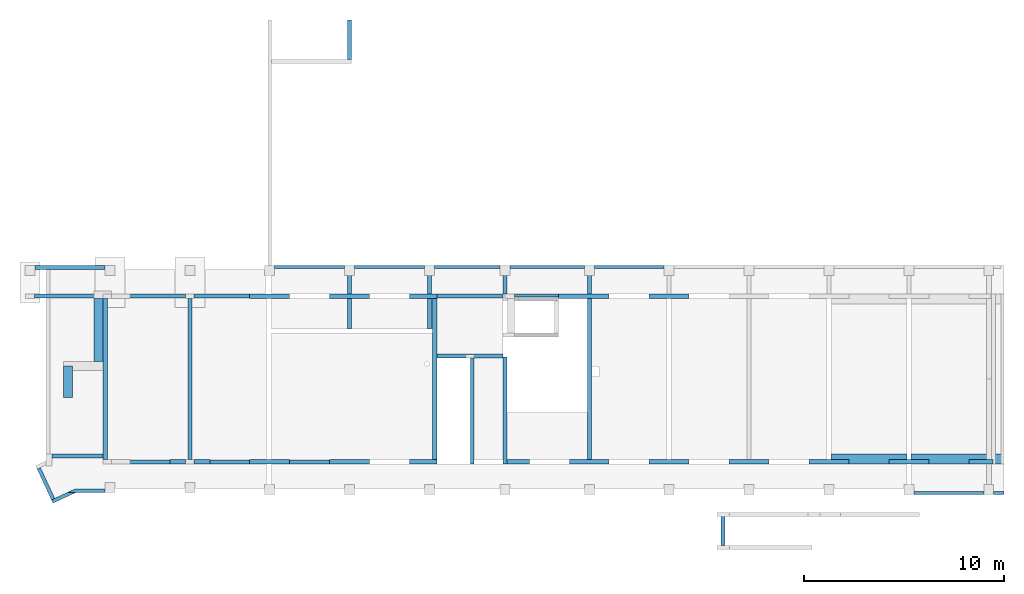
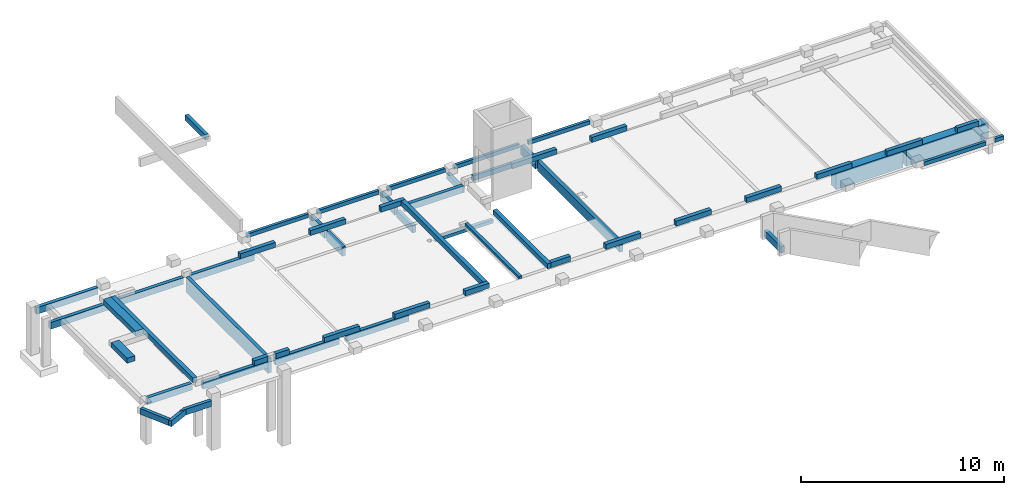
# One storey, part 1 of 5: 52 beams.
"""IFC2X3 building model written with IfcOpenShell, lengths in metres."""

from ifc_helpers import new_model, entity, si_unit, converted_unit, derived_unit, direction, frame, frame_2d, origin, origin_2d_with_axis, place, context, subcontext, project, spatial, polyline, rectangle, outline, extrude, clip, halfspace, source, transform, mapped, material, type_object, type_shapes, element, save


model = new_model("IFC2X3")

# Units and contexts
model_context = context("Model", 3, precision=1e-05, world=origin(), true_north=direction((6.12303176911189e-17, 1.0)))
body_context = subcontext(model_context, "Body", "Model", "MODEL_VIEW")
ifc_project = project(units=[si_unit("LENGTHUNIT", "METRE"), si_unit("AREAUNIT", "SQUARE_METRE"), si_unit("VOLUMEUNIT", "CUBIC_METRE"), converted_unit("PLANEANGLEUNIT", "DEGREE", entity("IfcRatioMeasure", 0.0174532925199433), si_unit("PLANEANGLEUNIT", "RADIAN"), dimensions=[0, 0, 0, 0, 0, 0, 0]), si_unit("MASSUNIT", "GRAM", prefix="KILO"), derived_unit("MASSDENSITYUNIT", [(si_unit("MASSUNIT", "GRAM", prefix="KILO"), 1), (si_unit("LENGTHUNIT", "METRE"), -3)]), si_unit("TIMEUNIT", "SECOND"), si_unit("FREQUENCYUNIT", "HERTZ"), si_unit("THERMODYNAMICTEMPERATUREUNIT", "DEGREE_CELSIUS"), derived_unit("THERMALTRANSMITTANCEUNIT", [(si_unit("MASSUNIT", "GRAM", prefix="KILO"), 1), (si_unit("THERMODYNAMICTEMPERATUREUNIT", "KELVIN"), -1), (si_unit("TIMEUNIT", "SECOND"), -3)]), derived_unit("VOLUMETRICFLOWRATEUNIT", [(si_unit("LENGTHUNIT", "METRE"), 3), (si_unit("TIMEUNIT", "SECOND"), -1)]), si_unit("ELECTRICCURRENTUNIT", "AMPERE"), si_unit("ELECTRICVOLTAGEUNIT", "VOLT"), si_unit("POWERUNIT", "WATT"), si_unit("FORCEUNIT", "NEWTON"), si_unit("ILLUMINANCEUNIT", "LUX"), si_unit("LUMINOUSFLUXUNIT", "LUMEN"), si_unit("LUMINOUSINTENSITYUNIT", "CANDELA"), derived_unit("USERDEFINED", [(si_unit("MASSUNIT", "GRAM", prefix="KILO"), -1), (si_unit("LENGTHUNIT", "METRE"), -2), (si_unit("TIMEUNIT", "SECOND"), 3), (si_unit("LUMINOUSFLUXUNIT", "LUMEN"), 1)]), derived_unit("LINEARVELOCITYUNIT", [(si_unit("LENGTHUNIT", "METRE"), 1), (si_unit("TIMEUNIT", "SECOND"), -1)]), si_unit("PRESSUREUNIT", "PASCAL"), derived_unit("USERDEFINED", [(si_unit("LENGTHUNIT", "METRE"), -2), (si_unit("MASSUNIT", "GRAM", prefix="KILO"), 1), (si_unit("TIMEUNIT", "SECOND"), -2)])], contexts=[model_context])

# Site, building, storey
site_placement = place(None, origin())
site = spatial("IfcSite", under=ifc_project, at=site_placement, Name="Default", CompositionType="ELEMENT")
building_placement = place(site_placement, origin())
building = spatial("IfcBuilding", under=site, at=building_placement, CompositionType="ELEMENT")
storey_placement = place(building_placement, origin())
storey = spatial("IfcBuildingStorey", under=building, at=storey_placement, Name="S01", CompositionType="ELEMENT", Elevation=0.0)

# Beams
ifc_material = material(Name="Béton, coulé sur place gris")
beam_type_1 = type_object("IfcBeamType", Name="20x55ht", PredefinedType="BEAM")
beam_1_placement = place(storey_placement, frame((45.269743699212, -187.006488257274, 0.0), z_axis=(0.0, 0.0, 1.0), x_axis=(0.0, 1.0, 0.0)))
element("IfcBeam", 1, at=beam_1_placement, inside=storey, type_object=beam_type_1, material=ifc_material, Name="II-Poutre rectangulaire - Béton:20x55ht", ObjectType="II-Poutre rectangulaire - Béton:20x55ht", context=body_context, shape_type="SweptSolid", body=[
    extrude(rectangle(XDim=0.370000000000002, YDim=0.200000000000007, at=frame_2d((4.16333634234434e-17, 0.0), x_axis=(1.0, 0.0))), frame((2.04999999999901, 0.0, -0.445000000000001), z_axis=(1.0, 0.0, 0.0), x_axis=(0.0, 0.0, -1.0)), (0.0, 0.0, 1.0), 1.44166921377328),
])
beam_2_placement = place(storey_placement, frame((49.4897436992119, -185.056488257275, 0.0), z_axis=(0.0, 0.0, 1.0), x_axis=(0.0, 1.0, 0.0)))
element("IfcBeam", 2, at=beam_2_placement, inside=storey, type_object=beam_type_1, material=ifc_material, Name="II-Poutre rectangulaire - Béton:20x55ht", ObjectType="II-Poutre rectangulaire - Béton:20x55ht", context=body_context, shape_type="SweptSolid", body=[
    extrude(rectangle(XDim=0.55, YDim=0.200000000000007, at=frame_2d((-5.55111512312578e-17, 0.0), x_axis=(1.0, 0.0))), frame((0.099999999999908, 0.0, -0.355000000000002), z_axis=(1.0, 0.0, 0.0), x_axis=(0.0, 0.0, -1.0)), (0.0, 0.0, 1.0), 1.44166921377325),
])
beam_type_2 = type_object("IfcBeamType", Name="20x55ht", PredefinedType="BEAM", material=ifc_material)
shared_shape_1 = source(origin(), body_context, "Body", "SweptSolid", [
    extrude(rectangle(XDim=0.55, YDim=0.200000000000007, at=frame_2d((0.0, 5.55111512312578e-17), x_axis=(0.0, 1.0))), frame((41.489743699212, -184.956488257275, -0.355000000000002), z_axis=(0.0, 1.0, 0.0), x_axis=(-1.0, 0.0, 0.0)), (0.0, 0.0, 1.0), 1.44166921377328),
    extrude(rectangle(XDim=0.420000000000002, YDim=0.200000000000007, at=frame_2d((0.0, 0.0), x_axis=(0.0, 1.0))), frame((41.489743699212, -186.714488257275, -0.420000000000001), z_axis=(0.0, 1.0, 0.0), x_axis=(-1.0, 0.0, 0.0)), (0.0, 0.0, 1.0), 1.55799999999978),
])
type_shapes(beam_type_2, [shared_shape_1])
beam_3_placement = place(storey_placement, origin())
element("IfcBeam", 3, at=beam_3_placement, inside=storey, type_object=beam_type_2, material=ifc_material, Name="II-Poutre rectangulaire - Béton:20x55ht", ObjectType="II-Poutre rectangulaire - Béton:20x55ht", context=body_context, shape_type="MappedRepresentation", body=[
    mapped(shared_shape_1, transform((0.0, 0.0, 0.0), scale=1.0)),
])
beam_type_3 = type_object("IfcBeamType", Name="20x55ht", PredefinedType="BEAM", material=ifc_material)
shared_shape_2 = source(origin(), body_context, "Body", "SweptSolid", [
    extrude(rectangle(XDim=0.55, YDim=0.200000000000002, at=frame_2d((2.16493489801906e-15, 5.55111512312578e-17), x_axis=(0.0, 1.0))), frame((37.4897436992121, -184.956488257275, -0.355000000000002), z_axis=(0.0, 1.0, 0.0), x_axis=(-1.0, 0.0, 0.0)), (0.0, 0.0, 1.0), 1.44166921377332),
    extrude(rectangle(XDim=0.55, YDim=0.200000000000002, at=frame_2d((2.16493489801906e-15, 5.55111512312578e-17), x_axis=(0.0, 1.0))), frame((37.4897436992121, -186.714488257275, -0.355000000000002), z_axis=(0.0, 1.0, 0.0), x_axis=(-1.0, 0.0, 0.0)), (0.0, 0.0, 1.0), 1.55799999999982),
])
type_shapes(beam_type_3, [shared_shape_2])
beam_4_placement = place(storey_placement, origin())
element("IfcBeam", 4, at=beam_4_placement, inside=storey, type_object=beam_type_3, material=ifc_material, Name="II-Poutre rectangulaire - Béton:20x55ht", ObjectType="II-Poutre rectangulaire - Béton:20x55ht", context=body_context, shape_type="MappedRepresentation", body=[
    mapped(shared_shape_2, transform((0.0, 0.0, 0.0), scale=1.0)),
])
beam_type_4 = type_object("IfcBeamType", Name="20x56ht", PredefinedType="BEAM")
beam_5_placement = place(storey_placement, frame((49.4897436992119, -193.359651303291, 0.0), z_axis=(0.0, 0.0, 1.0), x_axis=(0.0, 1.0, 0.0)))
element("IfcBeam", 5, at=beam_5_placement, inside=storey, type_object=beam_type_4, material=ifc_material, Name="II-Poutre rectangulaire - Béton:20x56ht", ObjectType="II-Poutre rectangulaire - Béton:20x56ht", context=body_context, shape_type="SweptSolid", body=[
    extrude(rectangle(XDim=0.56, YDim=0.200000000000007, at=frame_2d((-2.77555756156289e-17, 0.0), x_axis=(1.0, 0.0))), frame((0.0999999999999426, 0.0, -0.340000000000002), z_axis=(1.0, 0.0, 0.0), x_axis=(0.0, 0.0, -1.0)), (0.0, 0.0, 1.0), 8.10316304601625),
])
beam_type_5 = type_object("IfcBeamType", Name="20x40ht", PredefinedType="BEAM")
beam_6_placement = place(storey_placement, frame((41.7597436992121, -185.056488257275, 0.0)))
element("IfcBeam", 6, at=beam_6_placement, inside=storey, type_object=beam_type_5, material=ifc_material, Name="II-Poutre rectangulaire - Béton:20x40ht", ObjectType="II-Poutre rectangulaire - Béton:20x40ht", context=body_context, shape_type="SweptSolid", body=[
    extrude(rectangle(XDim=0.4, YDim=0.200000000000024, at=frame_2d((-2.77555756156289e-17, 0.0), x_axis=(1.0, 0.0))), frame((0.0999999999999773, 0.0, -0.260000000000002), z_axis=(1.0, 0.0, 0.0), x_axis=(0.0, 0.0, -1.0)), (0.0, 0.0, 1.0), 3.3099999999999),
])
beam_7_placement = place(storey_placement, frame((25.2947436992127, -183.614819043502, 0.0), z_axis=(0.0, 0.0, 1.0), x_axis=(-1.0, 0.0, 0.0)))
element("IfcBeam", 7, at=beam_7_placement, inside=storey, type_object=beam_type_5, material=ifc_material, Name="II-Poutre rectangulaire - Béton:20x40ht", ObjectType="II-Poutre rectangulaire - Béton:20x40ht", context=body_context, shape_type="SweptSolid", body=[
    extrude(rectangle(XDim=0.4, YDim=0.199999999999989, at=frame_2d((-2.77555756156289e-17, 0.0), x_axis=(1.0, 0.0))), frame((0.0550000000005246, 0.0, -0.260000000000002), z_axis=(1.0, 0.0, 0.0), x_axis=(0.0, 0.0, -1.0)), (0.0, 0.0, 1.0), 3.5),
])
beam_8_placement = place(storey_placement, frame((56.189743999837, -196.001320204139, 0.0), z_axis=(0.0, 0.0, 1.0), x_axis=(0.0, -1.0, 0.0)))
element("IfcBeam", 8, at=beam_8_placement, inside=storey, type_object=beam_type_5, material=ifc_material, Name="II-Poutre rectangulaire - Béton:20x40ht", ObjectType="II-Poutre rectangulaire - Béton:20x40ht", context=body_context, shape_type="SweptSolid", body=[
    extrude(rectangle(XDim=0.4, YDim=0.200000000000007, at=frame_2d((-1.38777878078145e-17, -8.65973959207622e-15), x_axis=(1.0, 0.0))), frame((-0.100000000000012, 0.0, -0.220000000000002), z_axis=(1.0, 0.0, 0.0), x_axis=(0.0, 0.0, -1.0)), (0.0, 0.0, 1.0), 1.64509999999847),
])
beam_9_placement = place(storey_placement, frame((33.2897436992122, -185.056488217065, 0.0), z_axis=(0.0, 0.0, 1.0), x_axis=(-1.0, 0.0, 0.0)))
element("IfcBeam", 9, at=beam_9_placement, inside=storey, type_object=beam_type_5, material=ifc_material, Name="II-Poutre rectangulaire - Béton:20x40ht", ObjectType="II-Poutre rectangulaire - Béton:20x40ht", context=body_context, shape_type="SweptSolid", body=[
    extrude(rectangle(XDim=0.4, YDim=0.199999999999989, at=frame_2d((-1.38777878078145e-17, 0.0), x_axis=(1.0, 0.0))), frame((0.0, 0.0, -0.200000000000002), z_axis=(1.0, 0.0, 0.0), x_axis=(0.0, 0.0, -1.0)), (0.0, 0.0, 1.0), 3.58000000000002),
])
beam_10_placement = place(storey_placement, frame((29.3397436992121, -185.056488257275, 0.0), z_axis=(0.0, 0.0, 1.0), x_axis=(-1.0, 0.0, 0.0)))
element("IfcBeam", 10, at=beam_10_placement, inside=storey, type_object=beam_type_5, material=ifc_material, Name="II-Poutre rectangulaire - Béton:20x40ht", ObjectType="II-Poutre rectangulaire - Béton:20x40ht", context=body_context, shape_type="SweptSolid", body=[
    extrude(rectangle(XDim=0.4, YDim=0.199999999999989, at=frame_2d((-1.38777878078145e-17, 0.0), x_axis=(1.0, 0.0))), frame((0.0699999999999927, 0.0, -0.200000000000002), z_axis=(1.0, 0.0, 0.0), x_axis=(0.0, 0.0, -1.0)), (0.0, 0.0, 1.0), 3.68799999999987),
])
beam_11_placement = place(storey_placement, frame((33.4597436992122, -193.359651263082, 0.0), z_axis=(0.0, 0.0, 1.0), x_axis=(-1.0, 0.0, 0.0)))
element("IfcBeam", 11, at=beam_11_placement, inside=storey, type_object=beam_type_5, material=ifc_material, Name="II-Poutre rectangulaire - Béton:20x40ht", ObjectType="II-Poutre rectangulaire - Béton:20x40ht", context=body_context, shape_type="SweptSolid", body=[
    extrude(rectangle(XDim=0.4, YDim=0.200000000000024, at=frame_2d((-1.38777878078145e-17, 0.0), x_axis=(1.0, 0.0))), frame((0.129999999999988, 0.0, -0.200000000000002), z_axis=(1.0, 0.0, 0.0), x_axis=(0.0, 0.0, -1.0)), (0.0, 0.0, 1.0), 3.62000000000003),
])
beam_12_placement = place(storey_placement, frame((29.3397436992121, -193.359651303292, 0.0), z_axis=(0.0, 0.0, 1.0), x_axis=(-1.0, 0.0, 0.0)))
element("IfcBeam", 12, at=beam_12_placement, inside=storey, type_object=beam_type_5, material=ifc_material, Name="II-Poutre rectangulaire - Béton:20x40ht", ObjectType="II-Poutre rectangulaire - Béton:20x40ht", context=body_context, shape_type="SweptSolid", body=[
    extrude(rectangle(XDim=0.4, YDim=0.199999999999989, at=frame_2d((-1.38777878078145e-17, 0.0), x_axis=(1.0, 0.0))), frame((0.0699999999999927, 0.0, -0.200000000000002), z_axis=(1.0, 0.0, 0.0), x_axis=(0.0, 0.0, -1.0)), (0.0, 0.0, 1.0), 3.68799999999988),
])
beam_13_placement = place(storey_placement, frame((25.1417436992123, -193.064651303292, 0.0), z_axis=(0.0, 0.0, 1.0), x_axis=(-1.0, 0.0, 0.0)))
element("IfcBeam", 13, at=beam_13_placement, inside=storey, type_object=beam_type_5, material=ifc_material, Name="II-Poutre rectangulaire - Béton:20x40ht", ObjectType="II-Poutre rectangulaire - Béton:20x40ht", context=body_context, shape_type="SweptSolid", body=[
    extrude(rectangle(XDim=0.4, YDim=0.199999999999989, at=frame_2d((-2.77555756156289e-17, 0.0), x_axis=(1.0, 0.0))), frame((0.0, 0.0, -0.260000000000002), z_axis=(1.0, 0.0, 0.0), x_axis=(0.0, 0.0, -1.0)), (0.0, 0.0, 1.0), 2.55722605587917),
])
beam_14_placement = place(storey_placement, frame((25.337743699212, -185.056488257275, 0.0), z_axis=(0.0, 0.0, 1.0), x_axis=(-1.0, 0.0, 0.0)))
element("IfcBeam", 14, at=beam_14_placement, inside=storey, type_object=beam_type_5, material=ifc_material, Name="II-Poutre rectangulaire - Béton:20x40ht", ObjectType="II-Poutre rectangulaire - Béton:20x40ht", context=body_context, shape_type="SweptSolid", body=[
    extrude(rectangle(XDim=0.4, YDim=0.199999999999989, at=frame_2d((-2.77555756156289e-17, 0.0), x_axis=(1.0, 0.0))), frame((0.195999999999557, 0.0, -0.260000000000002), z_axis=(1.0, 0.0, 0.0), x_axis=(0.0, 0.0, -1.0)), (0.0, 0.0, 1.0), 3.43200000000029),
])
beam_15_placement = place(storey_placement, frame((37.2947436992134, -193.359651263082, 0.0), z_axis=(0.0, 0.0, 1.0), x_axis=(-1.0, 0.0, 0.0)))
element("IfcBeam", 15, at=beam_15_placement, inside=storey, type_object=beam_type_5, material=ifc_material, Name="II-Poutre rectangulaire - Béton:20x40ht", ObjectType="II-Poutre rectangulaire - Béton:20x40ht", context=body_context, shape_type="SweptSolid", body=[
    extrude(rectangle(XDim=0.4, YDim=0.199999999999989, at=frame_2d((-1.38777878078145e-17, 0.0), x_axis=(1.0, 0.0))), frame((0.0, 0.0, -0.200000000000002), z_axis=(1.0, 0.0, 0.0), x_axis=(0.0, 0.0, -1.0)), (0.0, 0.0, 1.0), 3.53199999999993),
])
beam_16_placement = place(storey_placement, frame((41.7597436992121, -188.059651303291, 0.0)))
element("IfcBeam", 16, at=beam_16_placement, inside=storey, type_object=beam_type_5, material=ifc_material, Name="II-Poutre rectangulaire - Béton:20x40ht", ObjectType="II-Poutre rectangulaire - Béton:20x40ht", context=body_context, shape_type="SweptSolid", body=[
    extrude(rectangle(XDim=0.200000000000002, YDim=0.200000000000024, at=frame_2d((-1.38777878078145e-17, 0.0), x_axis=(1.0, 0.0))), frame((0.0999999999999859, 0.0, -0.360000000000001), z_axis=(1.0, 0.0, 0.0), x_axis=(0.0, 0.0, -1.0)), (0.0, 0.0, 1.0), 3.3099999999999),
])
beam_type_6 = type_object("IfcBeamType", Name="50x90/100Ht", PredefinedType="BEAM")
beam_17_placement = place(storey_placement, frame((70.2530436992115, -193.209651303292, 0.0), z_axis=(0.0, 0.0, 1.0), x_axis=(-1.0, 0.0, 0.0)))
element("IfcBeam", 17, at=beam_17_placement, inside=storey, type_object=beam_type_6, Name="Poutre_Ai_Variable:50x90/100Ht", ObjectType="Poutre_Ai_Variable:50x90/100Ht", context=body_context, shape_type="Clipping", body=[
    clip(extrude(rectangle(XDim=1.0, YDim=0.50000000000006, at=frame_2d((-5.1986193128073e-14, 0.0), x_axis=(0.0, 1.0))), frame((0.0, 0.0, -0.5), z_axis=(1.0, 0.0, 0.0), x_axis=(0.0, 1.0, 0.0)), (0.0, 0.0, 1.0), 4.6632999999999), halfspace(frame((0.0, 0.0, -0.9), z_axis=(-0.021439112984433, 0.0, -0.999770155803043), x_axis=(0.0, 1.0, 0.0)), False)),
])
beam_type_7 = type_object("IfcBeamType", Name="50x100ht", PredefinedType="BEAM")
beam_18_placement = place(storey_placement, frame((61.4897436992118, -193.209651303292, 0.0)))
element("IfcBeam", 18, at=beam_18_placement, inside=storey, type_object=beam_type_7, material=ifc_material, Name="II-Poutre rectangulaire - Béton:50x100ht", ObjectType="II-Poutre rectangulaire - Béton:50x100ht", context=body_context, shape_type="SweptSolid", body=[
    extrude(rectangle(XDim=1.0, YDim=0.500000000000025, at=frame_2d((5.55111512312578e-17, 0.0), x_axis=(1.0, 0.0))), frame((0.0999999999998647, 0.0, -0.500000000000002), z_axis=(1.0, 0.0, 0.0), x_axis=(0.0, 0.0, -1.0)), (0.0, 0.0, 1.0), 3.79999999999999),
])
beam_type_8 = type_object("IfcBeamType", Name="22x30ht", PredefinedType="BEAM")
beam_19_placement = place(storey_placement, frame((41.7597436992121, -185.056488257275, 0.0), z_axis=(0.0, 0.0, 1.0), x_axis=(-1.0, 0.0, 0.0)))
element("IfcBeam", 19, at=beam_19_placement, inside=storey, type_object=beam_type_8, material=ifc_material, Name="II-Poutre rectangulaire - Béton:22x30ht", ObjectType="II-Poutre rectangulaire - Béton:22x30ht", context=body_context, shape_type="SweptSolid", body=[
    extrude(rectangle(XDim=0.3, YDim=0.220000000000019, at=origin_2d_with_axis()), frame((-0.100000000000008, 0.0, 0.149999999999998), z_axis=(1.0, 0.0, 0.0), x_axis=(0.0, 0.0, -1.0)), (0.0, 0.0, 1.0), 1.37),
])
for number, where, z_axis, x_axis in (
    (20, (34.4897436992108, -185.056488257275, 0.0), (0.0, 0.0, 1.0), (-1.0, 0.0, 0.0)),
    (21, (38.4897436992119, -185.056488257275, 0.0), (0.0, 0.0, 1.0), (-1.0, 0.0, 0.0)),
):
    element("IfcBeam", number, at=place(storey_placement, frame(where, z_axis=z_axis, x_axis=x_axis)), inside=storey, type_object=beam_type_8, material=ifc_material, Name="II-Poutre rectangulaire - Béton:22x30ht", ObjectType="II-Poutre rectangulaire - Béton:22x30ht", context=body_context, shape_type="SweptSolid", body=[
        extrude(rectangle(XDim=0.3, YDim=0.219999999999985, at=frame_2d((0.0, 1.73264180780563e-14), x_axis=(1.0, 0.0))), frame((0.0, 0.0, 0.149999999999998), z_axis=(1.0, 0.0, 0.0), x_axis=(0.0, 0.0, -1.0)), (0.0, 0.0, 1.0), 1.99999999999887),
    ])
beam_20_placement = place(storey_placement, frame((41.7497436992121, -184.946488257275, 0.0), z_axis=(0.0, 0.0, 1.0), x_axis=(0.0, -1.0, 0.0)))
element("IfcBeam", 22, at=beam_20_placement, inside=storey, type_object=beam_type_8, material=ifc_material, Name="II-Poutre rectangulaire - Béton:22x30ht", ObjectType="II-Poutre rectangulaire - Béton:22x30ht", context=body_context, shape_type="SweptSolid", body=[
    extrude(rectangle(XDim=0.3, YDim=0.220000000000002, at=origin_2d_with_axis()), frame((0.220000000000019, 0.0, 0.149999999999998), z_axis=(1.0, 0.0, 0.0), x_axis=(0.0, 0.0, -1.0)), (0.0, 0.0, 1.0), 8.08316304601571),
])
for number, where, z_axis, x_axis in (
    (23, (34.4897436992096, -193.359651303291, 0.0), (0.0, 0.0, 1.0), (-1.0, 0.0, 0.0)),
    (24, (38.4897436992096, -193.359651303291, 0.0), (0.0, 0.0, 1.0), (-1.0, 0.0, 0.0)),
):
    element("IfcBeam", number, at=place(storey_placement, frame(where, z_axis=z_axis, x_axis=x_axis)), inside=storey, type_object=beam_type_8, material=ifc_material, Name="II-Poutre rectangulaire - Béton:22x30ht", ObjectType="II-Poutre rectangulaire - Béton:22x30ht", context=body_context, shape_type="SweptSolid", body=[
        extrude(rectangle(XDim=0.3, YDim=0.219999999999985, at=frame_2d((0.0, 1.73264180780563e-14), x_axis=(1.0, 0.0))), frame((0.0, 0.0, 0.149999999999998), z_axis=(1.0, 0.0, 0.0), x_axis=(0.0, 0.0, -1.0)), (0.0, 0.0, 1.0), 1.99999999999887),
    ])
beam_21_placement = place(storey_placement, frame((41.7597436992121, -193.359651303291, 0.0), z_axis=(0.0, 0.0, 1.0), x_axis=(-1.0, 0.0, 0.0)))
element("IfcBeam", 25, at=beam_21_placement, inside=storey, type_object=beam_type_8, material=ifc_material, Name="II-Poutre rectangulaire - Béton:22x30ht", ObjectType="II-Poutre rectangulaire - Béton:22x30ht", context=body_context, shape_type="SweptSolid", body=[
    extrude(rectangle(XDim=0.3, YDim=0.220000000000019, at=origin_2d_with_axis()), frame((-0.0999999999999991, 0.0, 0.149999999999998), z_axis=(1.0, 0.0, 0.0), x_axis=(0.0, 0.0, -1.0)), (0.0, 0.0, 1.0), 1.37000000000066),
])
beam_22_placement = place(storey_placement, frame((25.2517436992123, -185.056488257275, 0.0), z_axis=(0.0, 0.0, 1.0), x_axis=(0.0, -1.0, 0.0)))
element("IfcBeam", 26, at=beam_22_placement, inside=storey, type_object=beam_type_8, material=ifc_material, Name="II-Poutre rectangulaire - Béton:22x30ht", ObjectType="II-Poutre rectangulaire - Béton:22x30ht", context=body_context, shape_type="SweptSolid", body=[
    extrude(rectangle(XDim=0.3, YDim=0.220000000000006, at=frame_2d((0.0, 2.16493489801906e-15), x_axis=(1.0, 0.0))), frame((0.109999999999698, 0.0, 0.149999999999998), z_axis=(1.0, 0.0, 0.0), x_axis=(0.0, 0.0, -1.0)), (0.0, 0.0, 1.0), 8.08316304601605),
])
beam_23_placement = place(storey_placement, frame((45.269743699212, -188.106488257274, 0.0), z_axis=(0.0, 0.0, 1.0), x_axis=(0.0, -1.0, 0.0)))
element("IfcBeam", 27, at=beam_23_placement, inside=storey, type_object=beam_type_8, material=ifc_material, Name="II-Poutre rectangulaire - Béton:22x30ht", ObjectType="II-Poutre rectangulaire - Béton:22x30ht", context=body_context, shape_type="SweptSolid", body=[
    extrude(rectangle(XDim=0.3, YDim=0.220000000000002, at=frame_2d((0.0, -4.32986979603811e-15), x_axis=(1.0, 0.0))), frame((0.0, 0.0, 0.149999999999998), z_axis=(1.0, 0.0, 0.0), x_axis=(0.0, 0.0, -1.0)), (0.0, 0.0, 1.0), 5.36316304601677),
])
beam_24_placement = place(storey_placement, frame((46.4897436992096, -193.359651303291, 0.0), z_axis=(0.0, 0.0, 1.0), x_axis=(-1.0, 0.0, 0.0)))
element("IfcBeam", 28, at=beam_24_placement, inside=storey, type_object=beam_type_8, material=ifc_material, Name="II-Poutre rectangulaire - Béton:22x30ht", ObjectType="II-Poutre rectangulaire - Béton:22x30ht", context=body_context, shape_type="SweptSolid", body=[
    extrude(rectangle(XDim=0.3, YDim=0.220000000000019, at=origin_2d_with_axis()), frame((0.0, 0.0, 0.149999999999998), z_axis=(1.0, 0.0, 0.0), x_axis=(0.0, 0.0, -1.0)), (0.0, 0.0, 1.0), 1.10999999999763),
])
for number, where, z_axis, x_axis in (
    (29, (50.4897436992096, -193.359651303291, 0.0), (0.0, 0.0, 1.0), (-1.0, 0.0, 0.0)),
    (30, (54.4897436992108, -193.359651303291, 0.0), (0.0, 0.0, 1.0), (-1.0, 0.0, 0.0)),
    (31, (58.4897436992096, -193.359651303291, 0.0), (0.0, 0.0, 1.0), (-1.0, 0.0, 0.0)),
    (32, (62.4897436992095, -193.359651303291, 0.0), (0.0, 0.0, 1.0), (-1.0, 0.0, 0.0)),
    (33, (66.4897436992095, -193.359651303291, 0.0), (0.0, 0.0, 1.0), (-1.0, 0.0, 0.0)),
):
    element("IfcBeam", number, at=place(storey_placement, frame(where, z_axis=z_axis, x_axis=x_axis)), inside=storey, type_object=beam_type_8, material=ifc_material, Name="II-Poutre rectangulaire - Béton:22x30ht", ObjectType="II-Poutre rectangulaire - Béton:22x30ht", context=body_context, shape_type="SweptSolid", body=[
        extrude(rectangle(XDim=0.3, YDim=0.219999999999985, at=frame_2d((0.0, 1.73264180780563e-14), x_axis=(1.0, 0.0))), frame((0.0, 0.0, 0.149999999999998), z_axis=(1.0, 0.0, 0.0), x_axis=(0.0, 0.0, -1.0)), (0.0, 0.0, 1.0), 1.99999999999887),
    ])
beam_25_placement = place(storey_placement, frame((69.7097436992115, -193.359651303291, 0.0), z_axis=(0.0, 0.0, 1.0), x_axis=(-1.0, 0.0, 0.0)))
element("IfcBeam", 34, at=beam_25_placement, inside=storey, type_object=beam_type_8, material=ifc_material, Name="II-Poutre rectangulaire - Béton:22x30ht", ObjectType="II-Poutre rectangulaire - Béton:22x30ht", context=body_context, shape_type="SweptSolid", body=[
    extrude(rectangle(XDim=0.3, YDim=0.219999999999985, at=frame_2d((0.0, 1.73264180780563e-14), x_axis=(1.0, 0.0))), frame((0.0, 0.0, 0.149999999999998), z_axis=(1.0, 0.0, 0.0), x_axis=(0.0, 0.0, -1.0)), (0.0, 0.0, 1.0), 1.22000000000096),
])
beam_26_placement = place(storey_placement, frame((50.4897436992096, -185.056488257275, 0.0), z_axis=(0.0, 0.0, 1.0), x_axis=(-1.0, 0.0, 0.0)))
element("IfcBeam", 35, at=beam_26_placement, inside=storey, type_object=beam_type_8, material=ifc_material, Name="II-Poutre rectangulaire - Béton:22x30ht", ObjectType="II-Poutre rectangulaire - Béton:22x30ht", context=body_context, shape_type="SweptSolid", body=[
    extrude(rectangle(XDim=0.3, YDim=0.219999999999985, at=frame_2d((0.0, 1.73264180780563e-14), x_axis=(1.0, 0.0))), frame((0.0, 0.0, 0.149999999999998), z_axis=(1.0, 0.0, 0.0), x_axis=(0.0, 0.0, -1.0)), (0.0, 0.0, 1.0), 2.53999999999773),
])
beam_27_placement = place(storey_placement, frame((54.4897436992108, -185.056488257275, 0.0), z_axis=(0.0, 0.0, 1.0), x_axis=(-1.0, 0.0, 0.0)))
element("IfcBeam", 36, at=beam_27_placement, inside=storey, type_object=beam_type_8, material=ifc_material, Name="II-Poutre rectangulaire - Béton:22x30ht", ObjectType="II-Poutre rectangulaire - Béton:22x30ht", context=body_context, shape_type="SweptSolid", body=[
    extrude(rectangle(XDim=0.3, YDim=0.219999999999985, at=frame_2d((0.0, 1.73264180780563e-14), x_axis=(1.0, 0.0))), frame((0.0, 0.0, 0.149999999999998), z_axis=(1.0, 0.0, 0.0), x_axis=(0.0, 0.0, -1.0)), (0.0, 0.0, 1.0), 1.99999999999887),
])
beam_type_9 = type_object("IfcBeamType", Name="22x30ht", PredefinedType="BEAM", material=ifc_material)
shared_shape_3 = source(origin(), body_context, "Body", "SweptSolid", [
    extrude(rectangle(XDim=0.3, YDim=0.219999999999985, at=frame_2d((0.0, 1.73264180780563e-14), x_axis=(1.0, 0.0))), frame((29.2697436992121, -193.359651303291, 0.149999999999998), z_axis=(-1.0, 0.0, 0.0), x_axis=(0.0, 0.0, -1.0)), (0.0, 0.0, 1.0), 0.78000000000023),
    extrude(rectangle(XDim=0.3, YDim=0.219999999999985, at=frame_2d((0.0, 1.73264180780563e-14), x_axis=(1.0, 0.0))), frame((30.4897436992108, -193.359651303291, 0.149999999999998), z_axis=(-1.0, 0.0, 0.0), x_axis=(0.0, 0.0, -1.0)), (0.0, 0.0, 1.0), 0.77999999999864),
])
type_shapes(beam_type_9, [shared_shape_3])
beam_28_placement = place(storey_placement, origin())
element("IfcBeam", 37, at=beam_28_placement, inside=storey, type_object=beam_type_9, material=ifc_material, Name="II-Poutre rectangulaire - Béton:22x30ht", ObjectType="II-Poutre rectangulaire - Béton:22x30ht", context=body_context, shape_type="MappedRepresentation", body=[
    mapped(shared_shape_3, transform((0.0, 0.0, 0.0), scale=1.0)),
])
beam_type_10 = type_object("IfcBeamType", Name="18x35ht", PredefinedType="BEAM")
beam_29_placement = place(storey_placement, frame((25.2947436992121, -194.81132020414, 0.0), z_axis=(0.0, 0.0, 1.0), x_axis=(-1.0, 0.0, 0.0)))
element("IfcBeam", 38, at=beam_29_placement, inside=storey, type_object=beam_type_10, material=ifc_material, Name="II-Poutre rectangulaire - Béton:18x35ht", ObjectType="II-Poutre rectangulaire - Béton:18x35ht", context=body_context, shape_type="Clipping", body=[
    clip(extrude(rectangle(XDim=0.35, YDim=0.180000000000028, at=frame_2d((2.77555756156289e-17, 0.0), x_axis=(1.0, 0.0))), frame((0.0549999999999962, 0.0, -0.255000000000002), z_axis=(1.0, 0.0, 0.0), x_axis=(0.0, 0.0, -1.0)), (0.0, 0.0, 1.0), 1.8989924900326), halfspace(frame((1.13856643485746, -0.289207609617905, -0.430000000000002), z_axis=(0.421675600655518, -0.906746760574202, 0.0), x_axis=(0.906746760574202, 0.421675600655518, 0.0)), False)),
])
beam_30_placement = place(storey_placement, frame((23.7477162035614, -194.81132020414, 0.0), z_axis=(0.0, 0.0, 1.0), x_axis=(-0.906746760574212, -0.421675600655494, 0.0)))
element("IfcBeam", 39, at=beam_30_placement, inside=storey, type_object=beam_type_10, material=ifc_material, Name="II-Poutre rectangulaire - Béton:18x35ht", ObjectType="II-Poutre rectangulaire - Béton:18x35ht", context=body_context, shape_type="Clipping", body=[
    clip(extrude(rectangle(XDim=0.35, YDim=0.179999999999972, at=frame_2d((-4.16333634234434e-17, 9.08995101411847e-16), x_axis=(1.0, 0.0))), frame((0.0199034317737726, 0.0, -0.255000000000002), z_axis=(1.0, 0.0, 0.0), x_axis=(0.0, 0.0, -1.0)), (0.0, 0.0, 1.0), 1.24077088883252), halfspace(frame((-0.00797664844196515, 0.102965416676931, -0.0800000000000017), z_axis=(-0.421675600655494, -0.906746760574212, 0.0), x_axis=(-0.906746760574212, 0.421675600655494, 0.0)), False)),
])
beam_31_placement = place(storey_placement, frame((21.8909308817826, -193.594840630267, 0.0), z_axis=(0.0, 0.0, 1.0), x_axis=(0.421675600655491, -0.906746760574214, 0.0)))
element("IfcBeam", 40, at=beam_31_placement, inside=storey, type_object=beam_type_10, material=ifc_material, Name="II-Poutre rectangulaire - Béton:18x35ht", ObjectType="II-Poutre rectangulaire - Béton:18x35ht", context=body_context, shape_type="SweptSolid", body=[
    extrude(rectangle(XDim=0.35, YDim=0.180000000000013, at=frame_2d((-4.16333634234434e-17, -1.96370697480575e-15), x_axis=(1.0, 0.0))), frame((0.0900000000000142, 0.0, -0.255000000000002), z_axis=(1.0, 0.0, 0.0), x_axis=(0.0, 0.0, -1.0)), (0.0, 0.0, 1.0), 1.7059999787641),
])
beam_type_11 = type_object("IfcBeamType", Name="20x90ht", PredefinedType="BEAM")
beam_32_placement = place(storey_placement, frame((29.4897436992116, -185.166488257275, 0.0), z_axis=(0.0, 0.0, 1.0), x_axis=(0.0, -1.0, 0.0)))
element("IfcBeam", 41, at=beam_32_placement, inside=storey, type_object=beam_type_11, material=ifc_material, Name="II-Poutre rectangulaire - Béton:20x90ht", ObjectType="II-Poutre rectangulaire - Béton:20x90ht", context=body_context, shape_type="SweptSolid", body=[
    extrude(rectangle(XDim=0.9, YDim=0.200000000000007, at=frame_2d((2.77555756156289e-17, 0.0), x_axis=(1.0, 0.0))), frame((0.0, 0.0, -0.460000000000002), z_axis=(1.0, 0.0, 0.0), x_axis=(0.0, 0.0, -1.0)), (0.0, 0.0, 1.0), 8.08316304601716),
])
beam_type_12 = type_object("IfcBeamType", Name="16x30ht", PredefinedType="BEAM")
beam_33_placement = place(storey_placement, frame((47.9497436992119, -185.02648794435, 0.0), z_axis=(0.0, 0.0, 1.0), x_axis=(-1.0, 0.0, 0.0)))
element("IfcBeam", 42, at=beam_33_placement, inside=storey, type_object=beam_type_12, material=ifc_material, Name="II-Poutre rectangulaire - Béton:16x30ht", ObjectType="II-Poutre rectangulaire - Béton:16x30ht", context=body_context, shape_type="SweptSolid", body=[
    extrude(rectangle(XDim=0.3, YDim=0.159999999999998, at=frame_2d((0.0, -1.73264180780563e-14), x_axis=(1.0, 0.0))), frame((0.0, 0.0, 0.149999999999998), z_axis=(1.0, 0.0, 0.0), x_axis=(0.0, 0.0, -1.0)), (0.0, 0.0, 1.0), 2.19999999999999),
])
beam_type_13 = type_object("IfcBeamType", Name="16x23ht", PredefinedType="BEAM")
beam_34_placement = place(storey_placement, frame((37.2947436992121, -183.594819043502, 0.0), z_axis=(0.0, 0.0, 1.0), x_axis=(-1.0, 0.0, 0.0)))
element("IfcBeam", 43, at=beam_34_placement, inside=storey, type_object=beam_type_13, material=ifc_material, Name="II-Poutre rectangulaire - Béton:16x23ht", ObjectType="II-Poutre rectangulaire - Béton:16x23ht", context=body_context, shape_type="SweptSolid", body=[
    extrude(outline(polyline([(-0.114445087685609, -0.0799999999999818), (0.11555491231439, -0.0799999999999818), (0.113335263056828, 0.0800000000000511), (-0.114445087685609, 0.0800000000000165), (-0.114445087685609, -0.0799999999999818)])), frame((0.0549999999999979, 0.0, 0.0355549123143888), z_axis=(1.0, 0.0, 0.0), x_axis=(0.0, 0.0, -1.0)), (0.0, 0.0, 1.0), 3.5),
])
beam_35_placement = place(storey_placement, frame((41.294743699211, -183.594819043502, 0.0), z_axis=(0.0, 0.0, 1.0), x_axis=(-1.0, 0.0, 0.0)))
element("IfcBeam", 44, at=beam_35_placement, inside=storey, type_object=beam_type_13, material=ifc_material, Name="II-Poutre rectangulaire - Béton:16x23ht", ObjectType="II-Poutre rectangulaire - Béton:16x23ht", context=body_context, shape_type="SweptSolid", body=[
    extrude(rectangle(XDim=0.23, YDim=0.159999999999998, at=origin_2d_with_axis()), frame((0.0549999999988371, 0.0, 0.0349999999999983), z_axis=(1.0, 0.0, 0.0), x_axis=(0.0, 0.0, -1.0)), (0.0, 0.0, 1.0), 3.5),
])
beam_36_placement = place(storey_placement, frame((45.0197436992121, -183.594819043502, 0.0), z_axis=(0.0, 0.0, 1.0), x_axis=(-1.0, 0.0, 0.0)))
element("IfcBeam", 45, at=beam_36_placement, inside=storey, type_object=beam_type_13, material=ifc_material, Name="II-Poutre rectangulaire - Béton:16x23ht", ObjectType="II-Poutre rectangulaire - Béton:16x23ht", context=body_context, shape_type="SweptSolid", body=[
    extrude(rectangle(XDim=0.23, YDim=0.159999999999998, at=origin_2d_with_axis()), frame((0.0, 0.0, 0.0349999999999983), z_axis=(1.0, 0.0, 0.0), x_axis=(0.0, 0.0, -1.0)), (0.0, 0.0, 1.0), 3.28),
])
beam_37_placement = place(storey_placement, frame((49.2947436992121, -183.594819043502, 0.0), z_axis=(0.0, 0.0, 1.0), x_axis=(-1.0, 0.0, 0.0)))
element("IfcBeam", 46, at=beam_37_placement, inside=storey, type_object=beam_type_13, material=ifc_material, Name="II-Poutre rectangulaire - Béton:16x23ht", ObjectType="II-Poutre rectangulaire - Béton:16x23ht", context=body_context, shape_type="SweptSolid", body=[
    extrude(rectangle(XDim=0.23, YDim=0.159999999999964, at=frame_2d((0.0, 1.73264180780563e-14), x_axis=(1.0, 0.0))), frame((0.0549999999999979, 0.0, 0.0349999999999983), z_axis=(1.0, 0.0, 0.0), x_axis=(0.0, 0.0, -1.0)), (0.0, 0.0, 1.0), 3.72),
])
beam_38_placement = place(storey_placement, frame((53.2947436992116, -183.594819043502, 0.0), z_axis=(0.0, 0.0, 1.0), x_axis=(-1.0, 0.0, 0.0)))
element("IfcBeam", 47, at=beam_38_placement, inside=storey, type_object=beam_type_13, material=ifc_material, Name="II-Poutre rectangulaire - Béton:16x23ht", ObjectType="II-Poutre rectangulaire - Béton:16x23ht", context=body_context, shape_type="SweptSolid", body=[
    extrude(rectangle(XDim=0.23, YDim=0.159999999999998, at=origin_2d_with_axis()), frame((0.0549999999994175, 0.0, 0.0349999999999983), z_axis=(1.0, 0.0, 0.0), x_axis=(0.0, 0.0, -1.0)), (0.0, 0.0, 1.0), 3.5),
])
beam_type_14 = type_object("IfcBeamType", Name="16x23ht", PredefinedType="BEAM", material=ifc_material)
shared_shape_4 = source(origin(), body_context, "Body", "SweptSolid", [
    extrude(outline(polyline([(-0.114481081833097, -0.0800000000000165), (0.11344324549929, -0.0800000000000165), (0.115518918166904, 0.0799999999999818), (-0.114481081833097, 0.0799999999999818), (-0.114481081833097, -0.0800000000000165)])), frame((69.2397436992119, -194.921320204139, 0.0355189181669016), z_axis=(-1.0, 0.0, 0.0), x_axis=(0.0, 0.0, -1.0)), (0.0, 0.0, 1.0), 3.49999999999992),
    extrude(rectangle(XDim=0.23, YDim=0.159999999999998, at=frame_2d((0.0, 1.73264180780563e-14), x_axis=(1.0, 0.0))), frame((70.2530436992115, -194.921320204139, 0.0349999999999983), z_axis=(-1.0, 0.0, 0.0), x_axis=(0.0, 0.0, -1.0)), (0.0, 0.0, 1.0), 0.513299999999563),
])
type_shapes(beam_type_14, [shared_shape_4])
beam_39_placement = place(storey_placement, origin())
element("IfcBeam", 48, at=beam_39_placement, inside=storey, type_object=beam_type_14, material=ifc_material, Name="II-Poutre rectangulaire - Béton:16x23ht", ObjectType="II-Poutre rectangulaire - Béton:16x23ht", context=body_context, shape_type="MappedRepresentation", body=[
    mapped(shared_shape_4, transform((0.0, 0.0, 0.0), scale=1.0)),
])
beam_type_15 = type_object("IfcBeamType", Name="18x15ht", PredefinedType="BEAM")
beam_40_placement = place(storey_placement, frame((43.542243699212, -188.159651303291, 0.0), z_axis=(0.0, 0.0, 1.0), x_axis=(0.0, -1.0, 0.0)))
element("IfcBeam", 49, at=beam_40_placement, inside=storey, type_object=beam_type_15, material=ifc_material, Name="II-Poutre rectangulaire - Béton:18x15ht", ObjectType="II-Poutre rectangulaire - Béton:18x15ht", context=body_context, shape_type="SweptSolid", body=[
    extrude(rectangle(XDim=0.15, YDim=0.179999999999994, at=frame_2d((0.0, 4.32986979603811e-15), x_axis=(1.0, 0.0))), frame((0.0, 0.0900000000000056, 0.0149999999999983), z_axis=(1.0, 0.0, 0.0), x_axis=(0.0, 0.0, -1.0)), (0.0, 0.0, 1.0), 5.29999999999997),
])
beam_type_16 = type_object("IfcBeamType", Name="45x30ht", PredefinedType="BEAM")
beam_41_placement = place(storey_placement, frame((23.4047436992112, -188.564650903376, 0.0), z_axis=(0.0, 0.0, 1.0), x_axis=(0.0, -1.0, 0.0)))
element("IfcBeam", 50, at=beam_41_placement, inside=storey, type_object=beam_type_16, material=ifc_material, Name="II-Poutre rectangulaire - Béton:45x30ht", ObjectType="II-Poutre rectangulaire - Béton:45x30ht", context=body_context, shape_type="SweptSolid", body=[
    extrude(rectangle(XDim=0.3, YDim=0.45000000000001, at=frame_2d((0.0, -2.16493489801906e-15), x_axis=(1.0, 0.0))), frame((0.0, 0.0, 0.149999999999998), z_axis=(1.0, 0.0, 0.0), x_axis=(0.0, 0.0, -1.0)), (0.0, 0.0, 1.0), 1.5818374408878),
])
beam_42_placement = place(storey_placement, frame((24.9167436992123, -185.166488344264, 0.0), z_axis=(0.0, 0.0, 1.0), x_axis=(0.0, -1.0, 0.0)))
element("IfcBeam", 51, at=beam_42_placement, inside=storey, type_object=beam_type_16, material=ifc_material, Name="II-Poutre rectangulaire - Béton:45x30ht", ObjectType="II-Poutre rectangulaire - Béton:45x30ht", context=body_context, shape_type="SweptSolid", body=[
    extrude(rectangle(XDim=0.3, YDim=0.450000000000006, at=frame_2d((0.0, 2.16493489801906e-15), x_axis=(1.0, 0.0))), frame((0.0, 0.0, 0.149999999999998), z_axis=(1.0, 0.0, 0.0), x_axis=(0.0, 0.0, -1.0)), (0.0, 0.0, 1.0), 3.17316255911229),
])
beam_type_17 = type_object("IfcBeamType", Name="20x50ht", PredefinedType="BEAM")
beam_43_placement = place(storey_placement, frame((37.5897436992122, -173.406729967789, 0.0), z_axis=(0.0, 0.0, 1.0), x_axis=(0.0, 1.0, 0.0)))
element("IfcBeam", 52, at=beam_43_placement, inside=storey, type_object=beam_type_17, material=ifc_material, Name="II-Poutre rectangulaire - Béton:20x50ht", ObjectType="II-Poutre rectangulaire - Béton:20x50ht", context=body_context, shape_type="SweptSolid", body=[
    extrude(rectangle(XDim=0.319999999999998, YDim=0.200000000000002, at=frame_2d((-1.38777878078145e-16, -2.16493489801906e-15), x_axis=(1.0, 0.0))), frame((0.199999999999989, 0.0999999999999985, -1.66), z_axis=(1.0, 0.0, 0.0), x_axis=(0.0, 0.0, -1.0)), (0.0, 0.0, 1.0), 1.97194719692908),
])

save(model, "model.ifc")
